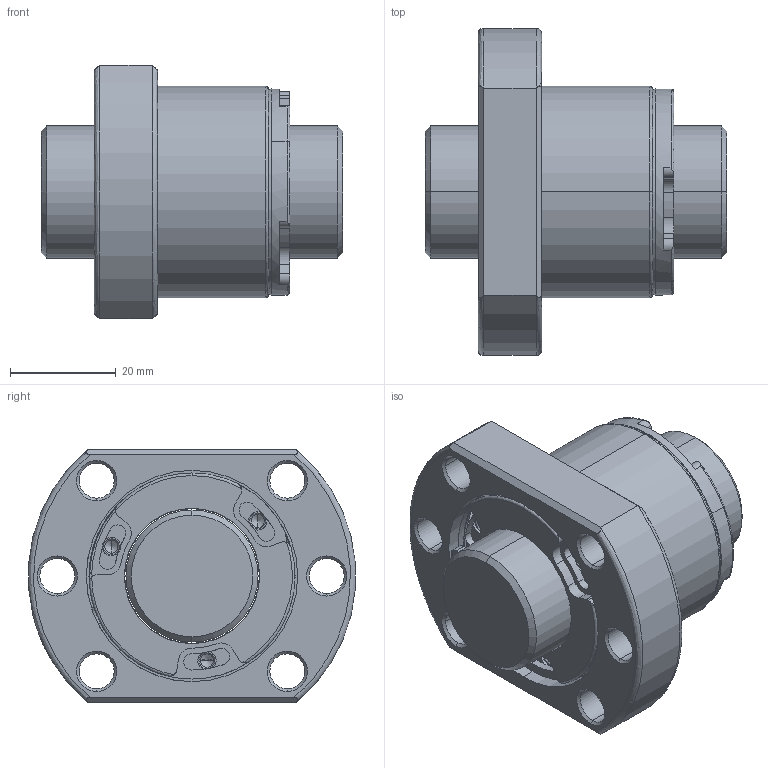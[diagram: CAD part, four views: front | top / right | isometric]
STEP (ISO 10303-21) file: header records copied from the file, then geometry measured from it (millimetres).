
FILE_DESCRIPTION (( 'STEP AP203' ), '1' );
FILE_NAME ('SFSR02505C1D-C.STEP', '2020-06-17T01:02:01', ( '' ), ( '' ), 'SwSTEP 2.0', 'SolidWorks 2013', '' );
FILE_SCHEMA (( 'CONFIG_CONTROL_DESIGN' ));
Length unit declared in the file: millimetre
Products named in the file (1): SFSR02505C1D-C
Bounding box: 57 x 61.8 x 48 mm (x, y, z)
Volume: 65899.8 mm3; surface area: 20829.2 mm2
Topology: 2 solids, 2 shells, 267 faces, 670 edges, 414 vertices
Faces by surface type: cylinder 132, plane 69, cone 52, bspline 14
Entity records: 8900 total; most frequent: CARTESIAN_POINT 2273, DIRECTION 1504, ORIENTED_EDGE 1316, EDGE_CURVE 658, AXIS2_PLACEMENT_3D 632, VERTEX_POINT 414, CIRCLE 378, EDGE_LOOP 304
